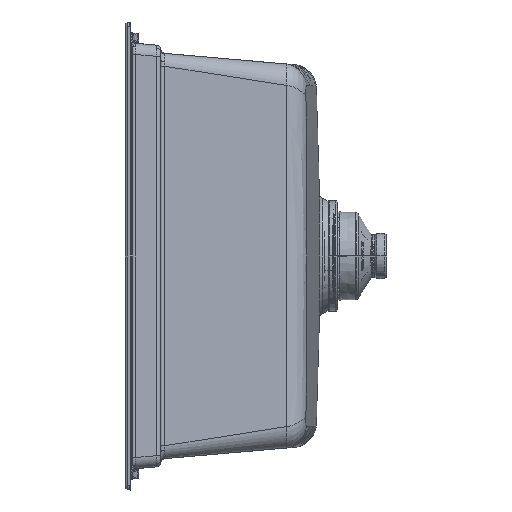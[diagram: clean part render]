
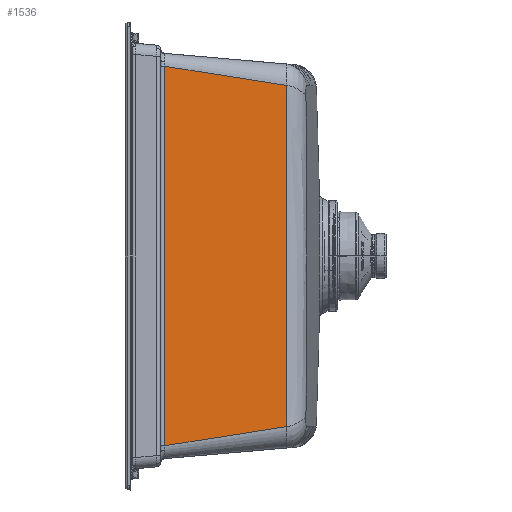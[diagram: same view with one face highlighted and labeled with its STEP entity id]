
A CAD part, left-side view. The second image highlights one B-rep face of the part: STEP entity #1536.
In plain terms, the highlighted planar face has unit normal (-0.996, -0.087, 0).
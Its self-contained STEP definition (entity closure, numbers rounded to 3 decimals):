
#1536 = ADVANCED_FACE ( 'NONE', ( #52488 ), #70876, .F. ) ;
#6369 = VECTOR ( 'NONE', #222007, 1000. ) ;
#12664 = DIRECTION ( 'NONE',  ( 0., 0., -1. ) ) ;
#20545 = EDGE_CURVE ( 'NONE', #121600, #66525, #28132, .T. ) ;
#28132 = B_SPLINE_CURVE_WITH_KNOTS ( 'NONE', 3,
 ( #157679, #163084, #75724, #36987 ),
 .UNSPECIFIED., .F., .F.,
 ( 4, 4 ),
 ( -0.087, 0.045 ),
 .UNSPECIFIED. ) ;
#31372 = ORIENTED_EDGE ( 'NONE', *, *, #163806, .F. ) ;
#35249 = DIRECTION ( 'NONE',  ( 0.996, 0.087, 0. ) ) ;
#36987 = CARTESIAN_POINT ( 'NONE',  ( 33.522, -36.381, -452.699 ) ) ;
#44876 = CARTESIAN_POINT ( 'NONE',  ( 44.882, -166.221, -459.54 ) ) ;
#49392 = CARTESIAN_POINT ( 'NONE',  ( 44.882, -166.221, -67.777 ) ) ;
#52488 = FACE_OUTER_BOUND ( 'NONE', #98194, .T. ) ;
#59512 = CARTESIAN_POINT ( 'NONE',  ( 44.882, -166.221, -432.223 ) ) ;
#61042 = CARTESIAN_POINT ( 'NONE',  ( 33.522, -36.381, -47.301 ) ) ;
#66525 = VERTEX_POINT ( 'NONE', #184561 ) ;
#66639 = CARTESIAN_POINT ( 'NONE',  ( 33.522, -36.381, -47.301 ) ) ;
#70876 = PLANE ( 'NONE',  #118673 ) ;
#75724 = CARTESIAN_POINT ( 'NONE',  ( 37.309, -79.661, -445.873 ) ) ;
#81002 = EDGE_CURVE ( 'NONE', #132579, #66525, #169123, .T. ) ;
#87263 = CARTESIAN_POINT ( 'NONE',  ( 37.309, -79.661, -54.127 ) ) ;
#98194 = EDGE_LOOP ( 'NONE', ( #31372, #179753, #115647, #134813 ) ) ;
#115647 = ORIENTED_EDGE ( 'NONE', *, *, #20545, .F. ) ;
#116162 = CARTESIAN_POINT ( 'NONE',  ( 44.882, -166.221, -67.777 ) ) ;
#117380 = CARTESIAN_POINT ( 'NONE',  ( 33.522, -36.381, -459.54 ) ) ;
#118673 = AXIS2_PLACEMENT_3D ( 'NONE', #170943, #35249, #153693 ) ;
#121600 = VERTEX_POINT ( 'NONE', #59512 ) ;
#126449 = VECTOR ( 'NONE', #12664, 1000. ) ;
#132189 = LINE ( 'NONE', #44876, #126449 ) ;
#132579 = VERTEX_POINT ( 'NONE', #61042 ) ;
#134813 = ORIENTED_EDGE ( 'NONE', *, *, #156048, .F. ) ;
#136711 = CARTESIAN_POINT ( 'NONE',  ( 41.095, -122.941, -60.952 ) ) ;
#153693 = DIRECTION ( 'NONE',  ( -0.087, 0.996, 0. ) ) ;
#156048 = EDGE_CURVE ( 'NONE', #210735, #121600, #132189, .T. ) ;
#157679 = CARTESIAN_POINT ( 'NONE',  ( 44.882, -166.221, -432.223 ) ) ;
#162232 = B_SPLINE_CURVE_WITH_KNOTS ( 'NONE', 3,
 ( #66639, #87263, #136711, #49392 ),
 .UNSPECIFIED., .F., .F.,
 ( 4, 4 ),
 ( -0.096, 0.036 ),
 .UNSPECIFIED. ) ;
#163084 = CARTESIAN_POINT ( 'NONE',  ( 41.095, -122.941, -439.048 ) ) ;
#163806 = EDGE_CURVE ( 'NONE', #132579, #210735, #162232, .T. ) ;
#169123 = LINE ( 'NONE', #117380, #6369 ) ;
#170943 = CARTESIAN_POINT ( 'NONE',  ( 32.49, -24.583, -459.54 ) ) ;
#179753 = ORIENTED_EDGE ( 'NONE', *, *, #81002, .T. ) ;
#184561 = CARTESIAN_POINT ( 'NONE',  ( 33.522, -36.381, -452.699 ) ) ;
#210735 = VERTEX_POINT ( 'NONE', #116162 ) ;
#222007 = DIRECTION ( 'NONE',  ( 0., 0., -1. ) ) ;
